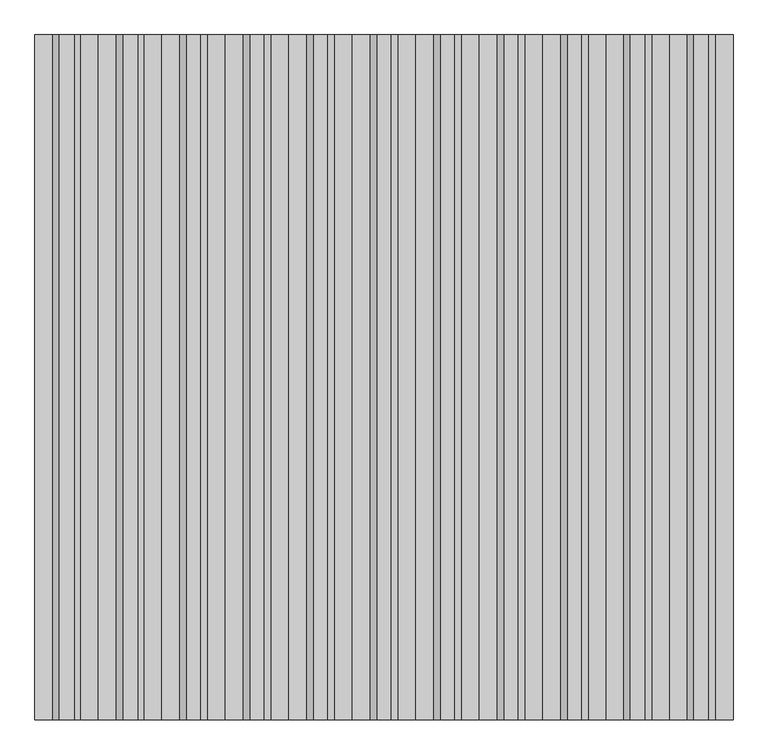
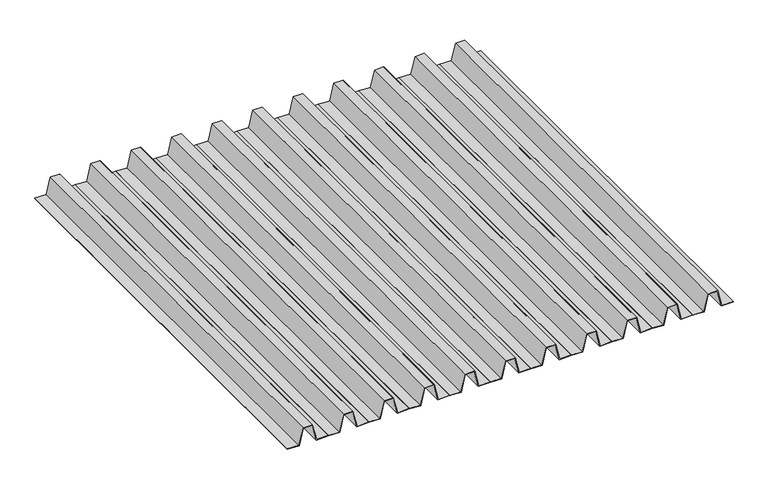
"""IFC4 building model written with IfcOpenShell, lengths in millimetres: proxy geometry, Renson_Amani_Fixed_Roof : Renson_Amani_Fixed_Roof."""

from ifc_helpers import new_model, si_unit, frame, origin, place, context, project, spatial, polyline, outline, extrude, source, transform, mapped, element, save


def generic_models_0899c663(model_context):
    return source(origin(), model_context, "Body", "SweptSolid", [
        extrude(outline(polyline([(2416.1350727, 2500.0), (2413.1322147, 2500.0), (2410.0, 2571.7403502), (2516.0797384, 2598.1893092), (2516.0797384, 2651.8176159), (2410.0, 2678.2596498), (2413.1322147, 2750.0), (2416.1350727, 2750.0), (2413.1040587, 2680.577555), (2519.0797384, 2654.1614661), (2519.0797384, 2595.845459), (2413.1040587, 2569.422445), (2416.1350727, 2500.0)])), frame((0.0, 0.0, 0.0), z_axis=(0.0, 1.0, 0.0), x_axis=(0.0, 0.0, 1.0)), (0.0, 0.0, 1.0), 2700.0),
        extrude(outline(polyline([(2416.1350727, 2250.0), (2413.1322147, 2250.0), (2410.0, 2321.7403502), (2516.0797384, 2348.1893092), (2516.0797384, 2401.8176159), (2410.0, 2428.2596498), (2413.1322147, 2500.0), (2416.1350727, 2500.0), (2413.1040587, 2430.577555), (2519.0797384, 2404.1614661), (2519.0797384, 2345.845459), (2413.1040587, 2319.422445), (2416.1350727, 2250.0)])), frame((0.0, 0.0, 0.0), z_axis=(0.0, 1.0, 0.0), x_axis=(0.0, 0.0, 1.0)), (0.0, 0.0, 1.0), 2700.0),
        extrude(outline(polyline([(2416.1350727, 2000.0), (2413.1322147, 2000.0), (2410.0, 2071.7403502), (2516.0797384, 2098.1893092), (2516.0797384, 2151.8176159), (2410.0, 2178.2596498), (2413.1322147, 2250.0), (2416.1350727, 2250.0), (2413.1040587, 2180.577555), (2519.0797384, 2154.1614661), (2519.0797384, 2095.845459), (2413.1040587, 2069.422445), (2416.1350727, 2000.0)])), frame((0.0, 0.0, 0.0), z_axis=(0.0, 1.0, 0.0), x_axis=(0.0, 0.0, 1.0)), (0.0, 0.0, 1.0), 2700.0),
        extrude(outline(polyline([(2416.1350727, 1750.0), (2413.1322147, 1750.0), (2410.0, 1821.7403502), (2516.0797384, 1848.1893092), (2516.0797384, 1901.8176159), (2410.0, 1928.2596498), (2413.1322147, 2000.0), (2416.1350727, 2000.0), (2413.1040587, 1930.577555), (2519.0797384, 1904.1614661), (2519.0797384, 1845.845459), (2413.1040587, 1819.422445), (2416.1350727, 1750.0)])), frame((0.0, 0.0, 0.0), z_axis=(0.0, 1.0, 0.0), x_axis=(0.0, 0.0, 1.0)), (0.0, 0.0, 1.0), 2700.0),
        extrude(outline(polyline([(2416.1350727, 1500.0), (2413.1322147, 1500.0), (2410.0, 1571.7403502), (2516.0797384, 1598.1893092), (2516.0797384, 1651.8176159), (2410.0, 1678.2596498), (2413.1322147, 1750.0), (2416.1350727, 1750.0), (2413.1040587, 1680.577555), (2519.0797384, 1654.1614661), (2519.0797384, 1595.845459), (2413.1040587, 1569.422445), (2416.1350727, 1500.0)])), frame((0.0, 0.0, 0.0), z_axis=(0.0, 1.0, 0.0), x_axis=(0.0, 0.0, 1.0)), (0.0, 0.0, 1.0), 2700.0),
        extrude(outline(polyline([(2416.1350727, 1250.0), (2413.1322147, 1250.0), (2410.0, 1321.7403502), (2516.0797384, 1348.1893092), (2516.0797384, 1401.8176159), (2410.0, 1428.2596498), (2413.1322147, 1500.0), (2416.1350727, 1500.0), (2413.1040587, 1430.577555), (2519.0797384, 1404.1614661), (2519.0797384, 1345.845459), (2413.1040587, 1319.422445), (2416.1350727, 1250.0)])), frame((0.0, 0.0, 0.0), z_axis=(0.0, 1.0, 0.0), x_axis=(0.0, 0.0, 1.0)), (0.0, 0.0, 1.0), 2700.0),
        extrude(outline(polyline([(2416.1350727, 1000.0), (2413.1322147, 1000.0), (2410.0, 1071.7403502), (2516.0797384, 1098.1893092), (2516.0797384, 1151.8176159), (2410.0, 1178.2596498), (2413.1322147, 1250.0), (2416.1350727, 1250.0), (2413.1040587, 1180.577555), (2519.0797384, 1154.1614661), (2519.0797384, 1095.845459), (2413.1040587, 1069.422445), (2416.1350727, 1000.0)])), frame((0.0, 0.0, 0.0), z_axis=(0.0, 1.0, 0.0), x_axis=(0.0, 0.0, 1.0)), (0.0, 0.0, 1.0), 2700.0),
        extrude(outline(polyline([(2416.1350727, 750.0), (2413.1322147, 750.0), (2410.0, 821.7403502), (2516.0797384, 848.1893092), (2516.0797384, 901.8176159), (2410.0, 928.2596498), (2413.1322147, 1000.0), (2416.1350727, 1000.0), (2413.1040587, 930.577555), (2519.0797384, 904.1614661), (2519.0797384, 845.845459), (2413.1040587, 819.422445), (2416.1350727, 750.0)])), frame((0.0, 0.0, 0.0), z_axis=(0.0, 1.0, 0.0), x_axis=(0.0, 0.0, 1.0)), (0.0, 0.0, 1.0), 2700.0),
        extrude(outline(polyline([(2416.1350727, 500.0), (2413.1322147, 500.0), (2410.0, 571.7403502), (2516.0797384, 598.1893092), (2516.0797384, 651.8176159), (2410.0, 678.2596498), (2413.1322147, 750.0), (2416.1350727, 750.0), (2413.1040587, 680.577555), (2519.0797384, 654.1614661), (2519.0797384, 595.845459), (2413.1040587, 569.422445), (2416.1350727, 500.0)])), frame((0.0, 0.0, 0.0), z_axis=(0.0, 1.0, 0.0), x_axis=(0.0, 0.0, 1.0)), (0.0, 0.0, 1.0), 2700.0),
        extrude(outline(polyline([(2416.1350727, 250.0), (2413.1322147, 250.0), (2410.0, 321.7403502), (2516.0797384, 348.1893092), (2516.0797384, 401.8176159), (2410.0, 428.2596498), (2413.1322147, 500.0), (2416.1350727, 500.0), (2413.1040587, 430.577555), (2519.0797384, 404.1614661), (2519.0797384, 345.845459), (2413.1040587, 319.422445), (2416.1350727, 250.0)])), frame((0.0, 0.0, 0.0), z_axis=(0.0, 1.0, 0.0), x_axis=(0.0, 0.0, 1.0)), (0.0, 0.0, 1.0), 2700.0),
        extrude(outline(polyline([(2416.1350727, 0.0), (2413.1322147, 0.0), (2410.0, 71.7403502), (2516.0797384, 98.1893092), (2516.0797384, 151.8176159), (2410.0, 178.2596498), (2413.1322147, 250.0), (2416.1350727, 250.0), (2413.1040587, 180.577555), (2519.0797384, 154.1614661), (2519.0797384, 95.845459), (2413.1040587, 69.422445), (2416.1350727, 0.0)])), frame((0.0, 0.0, 0.0), z_axis=(0.0, 1.0, 0.0), x_axis=(0.0, 0.0, 1.0)), (0.0, 0.0, 1.0), 2700.0),
    ])


if __name__ == "__main__":
    model = new_model("IFC4")
    model_context = context("Model", 3, world=origin())
    ifc_project = project(units=[si_unit("LENGTHUNIT", "METRE", prefix="MILLI")], contexts=[model_context])
    site = spatial("IfcSite", under=ifc_project)
    building = spatial("IfcBuilding", under=site)
    placement = place(None, origin())
    generic_models_shape = generic_models_0899c663(model_context)
    element("IfcBuildingElementProxy", 1, Name="Renson_Amani_Fixed_Roof : Renson_Amani_Fixed_Roof", ObjectType="Renson_Amani_Fixed_Roof : Renson_Amani_Fixed_Roof", at=placement, inside=building, context=model_context, shape_type="MappedRepresentation", body=[
        mapped(generic_models_shape, transform((0.0, 0.0, 0.0), x_axis=(1.0, 0.0, 0.0), y_axis=(0.0, 1.0, 0.0), z_axis=(0.0, 0.0, 1.0))),
    ])
    save(model, "model.ifc")
